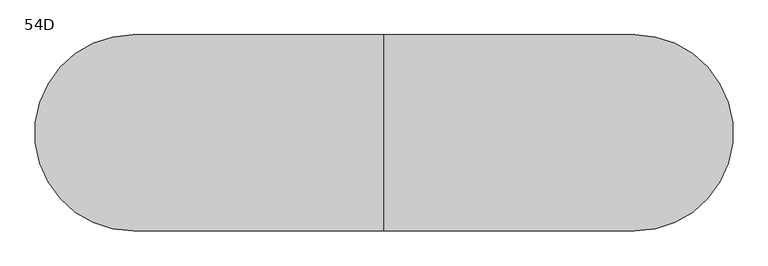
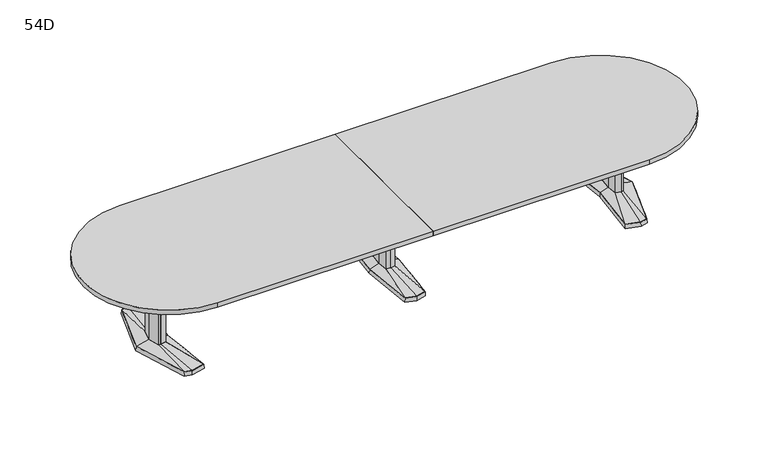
"""IFC4 building model written with IfcOpenShell, lengths in millimetres: furniture geometry, Coalesse_AM_Table_Conference_ETable2_Racetrack_16ft_AluminiumBase : 54D."""

import ifcopenshell
import ifcopenshell.guid

model = None  # the IFC model being written
_history = None  # IfcOwnerHistory: only IFC2X3 demands one
_inside = {}  # id of a spatial element -> (the spatial element, [elements in it])
_under = {}  # id of a project, library or spatial element -> (it, [spatial elements below it])
_declared = {}  # id of a project -> (the project, [libraries it declares])
_typed = {}  # id of a type object -> (the type object, [elements of that type])
_made_of = {}  # id of a material, layer set ... -> (it, [elements and type objects made of it])


def new_model(schema):
    """Start an empty IFC model of exactly this schema.

    Asked for "IFC4X3", IfcOpenShell would pick the latest addendum, in which some entities
    have other attributes; the version numbers below select the first issue.
    IFC2X3 requires an IfcOwnerHistory on every rooted entity: one is made here for all.
    """
    global model, _history
    if schema == "IFC4X3":
        model = ifcopenshell.file(schema_version=(4, 3, 0, 0))
    else:
        model = ifcopenshell.file(schema=schema)
    _inside.clear()
    _under.clear()
    _declared.clear()
    _typed.clear()
    _made_of.clear()
    _history = None
    if model.schema == "IFC2X3":
        org = make("IfcOrganization", Name="unknown")
        user = make(
            "IfcPersonAndOrganization",
            ThePerson=make("IfcPerson", FamilyName="unknown"),
            TheOrganization=org,
        )
        app = make(
            "IfcApplication",
            ApplicationDeveloper=org,
            Version="unknown",
            ApplicationFullName="unknown",
            ApplicationIdentifier="unknown",
        )
        _history = make(
            "IfcOwnerHistory",
            OwningUser=user,
            OwningApplication=app,
            ChangeAction="ADDED",
            CreationDate=0,
        )
    return model


def make(cls, **values):
    """One entity of the class cls with the attributes given. An attribute that is None is left unset."""
    return model.create_entity(
        cls, **{name: value for name, value in values.items() if value is not None}
    )


def rooted(cls, **values):
    """An entity with a GlobalId (a new one), such as an element, a storey or a relation."""
    return make(cls, GlobalId=ifcopenshell.guid.new(), OwnerHistory=_history, **values)


def si_unit(unit_type, name, prefix=None):
    """IfcSIUnit, for example si_unit("LENGTHUNIT", "METRE", prefix="MILLI")."""
    return make("IfcSIUnit", UnitType=unit_type, Prefix=prefix, Name=name)


def assignment(units):
    """IfcUnitAssignment: the units of a project."""
    return None if units is None else make("IfcUnitAssignment", Units=units)


def point(xyz):
    """IfcCartesianPoint."""
    return None if xyz is None else make("IfcCartesianPoint", Coordinates=xyz)


def direction(xyz):
    """IfcDirection."""
    return None if xyz is None else make("IfcDirection", DirectionRatios=xyz)


def frame(location, z_axis=None, x_axis=None):
    """IfcAxis2Placement3D, a coordinate frame: its origin and axes. An axis left out is left unset."""
    return make(
        "IfcAxis2Placement3D",
        Location=point(location),
        Axis=direction(z_axis),
        RefDirection=direction(x_axis),
    )


def frame_2d(location, x_axis=None):
    """IfcAxis2Placement2D, a coordinate frame in the plane: its origin and x axis."""
    return make(
        "IfcAxis2Placement2D", Location=point(location), RefDirection=direction(x_axis)
    )


def origin():
    """The frame at (0, 0, 0) with its axes left unset."""
    return frame((0.0, 0.0, 0.0))


def place(relative_to, where):
    """IfcLocalPlacement: puts the frame where relative to a parent placement (None: the world)."""
    return make(
        "IfcLocalPlacement", PlacementRelTo=relative_to, RelativePlacement=where
    )


def context(
    kind, dimensions, precision=None, world=None, true_north=None, identifier=None
):
    """IfcGeometricRepresentationContext, for example the 3D "Model" context."""
    return make(
        "IfcGeometricRepresentationContext",
        ContextIdentifier=identifier,
        ContextType=kind,
        CoordinateSpaceDimension=dimensions,
        Precision=precision,
        WorldCoordinateSystem=world,
        TrueNorth=true_north,
    )


def project(units=None, contexts=None):
    """IfcProject with its units and contexts."""
    return rooted(
        "IfcProject",
        Name="project",
        RepresentationContexts=contexts,
        UnitsInContext=assignment(units),
    )


def spatial(cls, under=None, at=None, **own):
    """A site, building, storey or space (cls), placed at a placement, below another one or the project."""
    s = rooted(cls, ObjectPlacement=at, **own)
    if under is not None:
        _under.setdefault(under.id(), (under, []))[1].append(s)
    return s


def polyline(points):
    """IfcPolyline through the points."""
    return make("IfcPolyline", Points=[point(p) for p in points])


def circle_curve(where, radius):
    """IfcCircle in the frame where."""
    return make("IfcCircle", Position=where, Radius=radius)


def trimmed(basis, trim1, trim2, sense, master):
    """IfcTrimmedCurve: the piece of a basis curve between two trims."""
    return make(
        "IfcTrimmedCurve",
        BasisCurve=basis,
        Trim1=trim1,
        Trim2=trim2,
        SenseAgreement=sense,
        MasterRepresentation=master,
    )


def segment(curve, same_sense, transition):
    """IfcCompositeCurveSegment."""
    return make(
        "IfcCompositeCurveSegment",
        Transition=transition,
        SameSense=same_sense,
        ParentCurve=curve,
    )


def composite_curve(segments, self_intersect=None):
    """IfcCompositeCurve: segments joined end to end."""
    return make("IfcCompositeCurve", Segments=segments, SelfIntersect=self_intersect)


def outline(outer, holes=None, kind="AREA"):
    """IfcArbitraryClosedProfileDef: a profile drawn as a closed curve; with holes, ...WithVoids."""
    if holes is None:
        return make("IfcArbitraryClosedProfileDef", ProfileType=kind, OuterCurve=outer)
    return make(
        "IfcArbitraryProfileDefWithVoids",
        ProfileType=kind,
        OuterCurve=outer,
        InnerCurves=holes,
    )


def extrude(swept, where, along, depth):
    """IfcExtrudedAreaSolid: the profile swept, set in the frame where, extruded along a direction by depth."""
    return make(
        "IfcExtrudedAreaSolid",
        SweptArea=swept,
        Position=where,
        ExtrudedDirection=direction(along),
        Depth=depth,
    )


def faces_of(points, faces, orient=None, outer=None):
    """IfcFace entities. A face is a list of loops; a loop is a list of indices into points, from 0.

    orient and outer hold one flag for each loop. By default every Orientation is true, the
    first loop of a face is its IfcFaceOuterBound and the others are IfcFaceBound.
    """
    made = []
    for i, loops in enumerate(faces):
        bounds = []
        for j, loop in enumerate(loops):
            is_outer = j == 0 if outer is None else outer[i][j]
            bounds.append(
                make(
                    "IfcFaceOuterBound" if is_outer else "IfcFaceBound",
                    Bound=make("IfcPolyLoop", Polygon=[points[k] for k in loop]),
                    Orientation=True if orient is None else orient[i][j],
                )
            )
        made.append(make("IfcFace", Bounds=bounds))
    return made


def faceted_brep(points, faces, orient=None, outer=None, voids=None):
    """IfcFacetedBrep: a solid bounded by flat faces; with voids (closed shells), ...WithVoids."""
    shared = [point(p) for p in points]
    hull = make("IfcClosedShell", CfsFaces=faces_of(shared, faces, orient, outer))
    if voids is None:
        return make("IfcFacetedBrep", Outer=hull)
    return make(
        "IfcFacetedBrepWithVoids",
        Outer=hull,
        Voids=[
            make(cls, CfsFaces=faces_of(shared, fs, o, b)) for cls, fs, o, b in voids
        ],
    )


def shape(context_of_items, identifier, shape_type, items):
    """IfcShapeRepresentation: the items that make up one representation, for example the "Body"."""
    return make(
        "IfcShapeRepresentation",
        ContextOfItems=context_of_items,
        RepresentationIdentifier=identifier,
        RepresentationType=shape_type,
        Items=items,
    )


def source(mapping_origin, context_of_items, identifier, shape_type, items):
    """IfcRepresentationMap: a shape defined once, which mapped items show again and again."""
    return make(
        "IfcRepresentationMap",
        MappingOrigin=mapping_origin,
        MappedRepresentation=shape(context_of_items, identifier, shape_type, items),
    )


def transform(
    local_origin,
    x_axis=None,
    y_axis=None,
    z_axis=None,
    scale=None,
    scale2=None,
    scale3=None,
    uniform=True,
):
    """IfcCartesianTransformationOperator3D, or its non-uniform kind. x_axis, y_axis, z_axis: its Axis1, 2, 3."""
    if uniform:
        return make(
            "IfcCartesianTransformationOperator3D",
            Axis1=direction(x_axis),
            Axis2=direction(y_axis),
            LocalOrigin=point(local_origin),
            Scale=scale,
            Axis3=direction(z_axis),
        )
    return make(
        "IfcCartesianTransformationOperator3DnonUniform",
        Axis1=direction(x_axis),
        Axis2=direction(y_axis),
        LocalOrigin=point(local_origin),
        Scale=scale,
        Axis3=direction(z_axis),
        Scale2=scale2,
        Scale3=scale3,
    )


def mapped(mapping_source, mapping_target):
    """IfcMappedItem: shows the shape of a source again, moved by a transform."""
    return make(
        "IfcMappedItem", MappingSource=mapping_source, MappingTarget=mapping_target
    )


def made_of(thing, what):
    """Note that an element or type object is made of a material, layer set ...; save() writes the relation."""
    if what is not None:
        _made_of.setdefault(what.id(), (what, []))[1].append(thing)
    return thing


def element(
    cls,
    number,
    at=None,
    inside=None,
    cuts=None,
    type_object=None,
    material=None,
    context=None,
    identifier="Body",
    shape_type=None,
    held_by="IfcProductDefinitionShape",
    body=None,
    shapes=None,
    **own,
):
    """One element of the class cls, such as IfcWall. Its Tag is "e" and its number.

    at: its placement. inside: the storey or other place that contains it. cuts: it is an
    opening in that element (IfcRelVoidsElement). A single representation is given by context,
    identifier, shape_type and body (its items); several are given by shapes. held_by: the class
    of the entity that holds the representations. save() writes the other relations.
    """
    e = rooted(cls, Tag="e%d" % number, ObjectPlacement=at, **own)
    if body is not None:
        shapes = [shape(context, identifier, shape_type, body)]
    if shapes is not None:
        e.Representation = make(held_by, Representations=shapes)
    if inside is not None:
        _inside.setdefault(inside.id(), (inside, []))[1].append(e)
    if cuts is not None:
        rooted(
            "IfcRelVoidsElement", RelatingBuildingElement=cuts, RelatedOpeningElement=e
        )
    if type_object is not None:
        _typed.setdefault(type_object.id(), (type_object, []))[1].append(e)
    return made_of(e, material)


def aggregate(whole, parts):
    """IfcRelAggregates: a whole, such as a stair, and the parts it consists of."""
    return rooted("IfcRelAggregates", RelatingObject=whole, RelatedObjects=parts)


def save(model, path):
    """Write the relations noted so far, then the file.

    IfcRelAggregates (storeys below a building ...), IfcRelContainedInSpatialStructure (elements
    in a storey), IfcRelDefinesByType, IfcRelAssociatesMaterial and IfcRelDeclares: one each for
    every whole, place, type object, material and project.
    """
    for whole, parts in _under.values():
        aggregate(whole, parts)
    for where, things in _inside.values():
        rooted(
            "IfcRelContainedInSpatialStructure",
            RelatedElements=things,
            RelatingStructure=where,
        )
    for kind, things in _typed.values():
        rooted("IfcRelDefinesByType", RelatedObjects=things, RelatingType=kind)
    for what, things in _made_of.values():
        rooted("IfcRelAssociatesMaterial", RelatedObjects=things, RelatingMaterial=what)
    for by, libraries in _declared.values():
        rooted("IfcRelDeclares", RelatingContext=by, RelatedDefinitions=libraries)
    model.write(path)


def plane_surface(at):
    """IfcPlane: the flat surface through the origin of the frame at, square to its z axis."""
    return make("IfcPlane", Position=at)


def spline_surface(u_degree, v_degree, points, u_multiplicities, v_multiplicities, u_knots, v_knots, weights=None):
    """IfcBSplineSurfaceWithKnots; with weights, IfcRationalBSplineSurfaceWithKnots. points: one row for each step in u."""
    own = dict(
        UDegree=u_degree,
        VDegree=v_degree,
        ControlPointsList=[[point(p) for p in row] for row in points],
        SurfaceForm="UNSPECIFIED",
        UClosed=False,
        VClosed=False,
        SelfIntersect=False,
        UMultiplicities=u_multiplicities,
        VMultiplicities=v_multiplicities,
        UKnots=u_knots,
        VKnots=v_knots,
        KnotSpec="UNSPECIFIED",
    )
    if weights is None:
        return make("IfcBSplineSurfaceWithKnots", **own)
    return make("IfcRationalBSplineSurfaceWithKnots", WeightsData=weights, **own)


def advanced_brep(points, edges, surfaces, faces):
    """IfcAdvancedBrep: a solid bounded by faces that lie on surfaces and meet in shared edges.

    An edge is (start, end): straight between two places in points (the first is 0);
    or (start, end, curve); or (start, end, curve, False) where it runs against its curve.
    A face is (place in surfaces, loops), or (place, loops, False) where it looks against
    its surface's normal. A loop lists edges by number (the first is 1), with a minus sign
    where the edge is run from its end to its start. The first loop is the outer one.
    """
    corners = [point(p) for p in points]
    vertices = [make("IfcVertexPoint", VertexGeometry=c) for c in corners]
    made = []
    for start, end, *more in edges:
        made.append(
            make(
                "IfcEdgeCurve",
                EdgeStart=vertices[start],
                EdgeEnd=vertices[end],
                EdgeGeometry=more[0] if more else make("IfcPolyline", Points=[corners[start], corners[end]]),
                SameSense=more[1] if len(more) > 1 else True,
            )
        )
    hull = []
    for where, loops, *sense in faces:
        bounds = []
        for j, loop in enumerate(loops):
            ring = [make("IfcOrientedEdge", EdgeElement=made[abs(k) - 1], Orientation=k > 0) for k in loop]
            bounds.append(
                make(
                    "IfcFaceOuterBound" if j == 0 else "IfcFaceBound",
                    Bound=make("IfcEdgeLoop", EdgeList=ring),
                    Orientation=True,
                )
            )
        hull.append(make("IfcAdvancedFace", Bounds=bounds, FaceSurface=surfaces[where], SameSense=sense[0] if sense else True))
    return make("IfcAdvancedBrep", Outer=make("IfcClosedShell", CfsFaces=hull))


def furniture_54d_09924e1d(model_context):
    return source(origin(), model_context, "Body", "SolidModel", [
        faceted_brep([(-81.2333791, -433.8053819, 38.1), (0.0, -455.556576, 38.1), (81.2333791, -433.8053819, 38.1), (119.0564774, 0.0, 38.1), (81.2333791, 433.8053819, 38.1), (0.0, 455.556576, 38.1), (-81.2333791, 433.8053819, 38.1), (-119.0564774, 0.0, 38.1), (-82.7182795, -435.0512063, 3.175), (-120.65, 0.0, 3.175), (-82.7182795, 435.0512063, 3.175), (0.0, 457.2, 3.175), (82.7182795, 435.0512063, 3.175), (120.65, 0.0, 3.175), (82.7182795, -435.0512063, 3.175), (0.0, -457.2, 3.175), (0.0, 429.2617927, 3.175), (-77.9676806, 408.3850278, 3.175), (-74.7019821, 382.9646737, 3.175), (0.0, 402.9670094, 3.175), (74.7019821, 382.9646737, 3.175), (77.9676806, 408.3850278, 3.175), (0.0, -429.2617927, 3.175), (77.9676806, -408.3850278, 3.175), (74.7019821, -382.9646737, 3.175), (0.0, -402.9670094, 3.175), (-74.7019821, -382.9646737, 3.175), (-77.9676806, -408.3850278, 3.175), (-71.8574262, 114.6326257, 3.175), (-82.5426076, 0.0, 3.175), (-71.8574262, -114.6326257, 3.175), (0.0, -133.8761372, 3.175), (71.8574262, -114.6326257, 3.175), (82.5426076, 0.0, 3.175), (71.8574262, 114.6326257, 3.175), (0.0, 133.8761372, 3.175), (0.0, 429.2617927, 0.0), (77.9676806, 408.3850278, 0.0), (74.7019821, 382.9646737, 0.0), (0.0, 402.9670094, 0.0), (-74.7019821, 382.9646737, 0.0), (-77.9676806, 408.3850278, 0.0), (0.0, -429.2617927, 0.0), (-77.9676806, -408.3850278, 0.0), (-74.7019821, -382.9646737, 0.0), (0.0, -402.9670094, 0.0), (74.7019821, -382.9646737, 0.0), (77.9676806, -408.3850278, 0.0), (-71.8574262, 114.6326257, 0.0), (0.0, 133.8761372, 0.0), (71.8574262, 114.6326257, 0.0), (82.5426076, 0.0, 0.0), (71.8574262, -114.6326257, 0.0), (0.0, -133.8761372, 0.0), (-71.8574262, -114.6326257, 0.0), (-82.5426076, 0.0, 0.0)], [[[0, 1, 2, 3, 4, 5, 6, 7]], [[8, 9, 10, 11, 12, 13, 14, 15], [16, 17, 18, 19, 20, 21], [22, 23, 24, 25, 26, 27], [28, 29, 30, 31, 32, 33, 34, 35]], [[1, 0, 8, 15]], [[2, 1, 15, 14]], [[3, 2, 14, 13]], [[4, 3, 13, 12]], [[5, 4, 12, 11]], [[6, 5, 11, 10]], [[7, 6, 10, 9]], [[0, 7, 9, 8]], [[36, 37, 38, 39, 40, 41]], [[42, 43, 44, 45, 46, 47]], [[48, 49, 50, 51, 52, 53, 54, 55]], [[36, 41, 17, 16]], [[41, 40, 18, 17]], [[40, 39, 19, 18]], [[39, 38, 20, 19]], [[38, 37, 21, 20]], [[37, 36, 16, 21]], [[42, 47, 23, 22]], [[47, 46, 24, 23]], [[46, 45, 25, 24]], [[45, 44, 26, 25]], [[44, 43, 27, 26]], [[43, 42, 22, 27]], [[48, 55, 29, 28]], [[55, 54, 30, 29]], [[54, 53, 31, 30]], [[53, 52, 32, 31]], [[52, 51, 33, 32]], [[51, 50, 34, 33]], [[50, 49, 35, 34]], [[49, 48, 28, 35]]]),
        faceted_brep([(-36.3832834, 84.6900825, 698.5), (-44.2774487, 0.0, 698.5), (-36.3832834, -84.6900825, 698.5), (0.0, -94.4335728, 698.5), (36.3832834, -84.6900825, 698.5), (44.2774487, 0.0, 698.5), (36.3832834, 84.6900825, 698.5), (0.0, 94.4335728, 698.5), (-36.3832834, 84.6900825, 63.5), (0.0, 94.4335728, 63.5), (36.3832834, 84.6900825, 63.5), (44.2774487, 0.0, 63.5), (36.3832834, -84.6900825, 63.5), (0.0, -94.4335728, 63.5), (-36.3832834, -84.6900825, 63.5), (-44.2774487, 0.0, 63.5)], [[[0, 1, 2, 3, 4, 5, 6, 7]], [[8, 9, 10, 11, 12, 13, 14, 15]], [[1, 0, 8, 15]], [[2, 1, 15, 14]], [[3, 2, 14, 13]], [[4, 3, 13, 12]], [[5, 4, 12, 11]], [[6, 5, 11, 10]], [[7, 6, 10, 9]], [[0, 7, 9, 8]]]),
        advanced_brep(
        [(-36.3832834, 84.6900825, 63.5), (-44.2774487, 0.0, 63.5), (-36.3832834, -84.6900825, 63.5), (0.0, -94.4335728, 63.5), (36.3832834, -84.6900825, 63.5), (44.2774487, 0.0, 63.5), (36.3832834, 84.6900825, 63.5), (0.0, 94.4335728, 63.5), (-81.2333791, 433.8053819, 38.1), (0.0, 455.556576, 38.1), (81.2333791, 433.8053819, 38.1), (119.0564774, 0.0, 38.1), (81.2333791, -433.8053819, 38.1), (0.0, -455.556576, 38.1), (-81.2333791, -433.8053819, 38.1), (-119.0564774, 0.0, 38.1)],
        [
            (0, 1),
            (1, 2),
            (2, 3),
            (3, 4),
            (4, 5),
            (5, 6),
            (6, 7),
            (7, 0),
            (8, 9),
            (9, 10),
            (10, 11),
            (11, 12),
            (12, 13),
            (13, 14),
            (14, 15),
            (15, 8),
            (15, 1),
            (0, 8),
            (14, 2),
            (13, 3),
            (12, 4),
            (11, 5),
            (10, 6),
            (9, 7),
        ],
        [
            plane_surface(frame((0.0, 0.0, 63.5), z_axis=(0.0, 0.0, 1.0000000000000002), x_axis=(-0.9659615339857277, -0.25868574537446, 0.0))),
            plane_surface(frame((0.0, 0.0, 38.1), z_axis=(0.0, 0.0, -1.0000000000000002), x_axis=(-0.9659615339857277, -0.25868574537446, 0.0))),
            spline_surface(1, 1, [[(-81.2333791, 433.8053819, 38.1), (-36.3832834, 84.6900825, 63.5)], [(-119.0564774, 0.0, 38.1), (-44.2774487, 0.0, 63.5)]], [2, 2], [2, 2], [0.0, 1.0], [0.0, 1.0]),
            spline_surface(1, 1, [[(-119.0564774, 0.0, 38.1), (-44.2774487, 0.0, 63.5)], [(-81.2333791, -433.8053819, 38.1), (-36.3832834, -84.6900825, 63.5)]], [2, 2], [2, 2], [0.0, 1.0], [0.0, 1.0]),
            spline_surface(1, 1, [[(-81.2333791, -433.8053819, 38.1), (-36.3832834, -84.6900825, 63.5)], [(0.0, -455.556576, 38.1), (0.0, -94.4335728, 63.5)]], [2, 2], [2, 2], [0.0, 1.0], [0.0, 1.0]),
            spline_surface(1, 1, [[(0.0, -455.556576, 38.1), (0.0, -94.4335728, 63.5)], [(81.2333791, -433.8053819, 38.1), (36.3832834, -84.6900825, 63.5)]], [2, 2], [2, 2], [0.0, 1.0], [0.0, 1.0]),
            spline_surface(1, 1, [[(81.2333791, -433.8053819, 38.1), (36.3832834, -84.6900825, 63.5)], [(119.0564774, 0.0, 38.1), (44.2774487, 0.0, 63.5)]], [2, 2], [2, 2], [0.0, 1.0], [0.0, 1.0]),
            spline_surface(1, 1, [[(119.0564774, 0.0, 38.1), (44.2774487, 0.0, 63.5)], [(81.2333791, 433.8053819, 38.1), (36.3832834, 84.6900825, 63.5)]], [2, 2], [2, 2], [0.0, 1.0], [0.0, 1.0]),
            spline_surface(1, 1, [[(81.2333791, 433.8053819, 38.1), (36.3832834, 84.6900825, 63.5)], [(0.0, 455.556576, 38.1), (0.0, 94.4335728, 63.5)]], [2, 2], [2, 2], [0.0, 1.0], [0.0, 1.0]),
            spline_surface(1, 1, [[(0.0, 455.556576, 38.1), (0.0, 94.4335728, 63.5)], [(-81.2333791, 433.8053819, 38.1), (-36.3832834, 84.6900825, 63.5)]], [2, 2], [2, 2], [0.0, 1.0], [0.0, 1.0]),
        ],
        [
            (0, [[1, 2, 3, 4, 5, 6, 7, 8]]),
            (1, [[9, 10, 11, 12, 13, 14, 15, 16]]),
            (2, [[-16, 17, -1, 18]]),
            (3, [[-15, 19, -2, -17]]),
            (4, [[-14, 20, -3, -19]]),
            (5, [[-13, 21, -4, -20]]),
            (6, [[-12, 22, -5, -21]]),
            (7, [[-11, 23, -6, -22]]),
            (8, [[-10, 24, -7, -23]]),
            (9, [[-9, -18, -8, -24]]),
        ],
    ),
        faceted_brep([(1820.2306835, 455.5848221, 38.1), (1710.6531277, 426.2263816, 38.1), (1751.8163717, 0.0, 38.1), (1710.6531277, -426.2263816, 38.1), (1820.2306835, -455.5848221, 38.1), (1876.3570396, -440.5478297, 38.1), (2013.6684269, 0.0, 38.1), (1876.3570396, 440.5478297, 38.1), (1820.2306754, 457.2283104, 3.175), (1877.6124472, 441.8549756, 3.175), (2015.33125, 0.0, 3.175), (1877.6124472, -441.8549756, 3.175), (1820.2306754, -457.2283104, 3.175), (1708.94375, -427.4118891, 3.175), (1750.2214856, 0.0, 3.175), (1708.94375, 427.4118891, 3.175), (1823.820115, 428.3273875, 3.175), (1718.7718228, 402.1057253, 3.175), (1726.890518, 377.985069, 3.175), (1827.4095466, 401.0699529, 3.175), (1877.9691725, 387.524361, 3.175), (1877.1631061, 414.0360954, 3.175), (1823.820115, -428.3273875, 3.175), (1877.1631061, -414.0360954, 3.175), (1877.9691725, -387.524361, 3.175), (1827.4095466, -401.0699529, 3.175), (1726.890518, -377.985069, 3.175), (1718.7718228, -402.1057253, 3.175), (1950.4153621, 0.0, 3.175), (1918.1459611, 120.4193755, 3.175), (1869.4987222, 133.471665, 3.175), (1789.6180526, 119.4176561, 3.175), (1778.4868466, 0.0, 3.175), (1789.6180526, -119.4176561, 3.175), (1869.4987222, -133.471665, 3.175), (1918.1459611, -120.4193755, 3.175), (1823.820115, 428.3273875, 0.0), (1877.1631061, 414.0360954, 0.0), (1877.9691725, 387.524361, 0.0), (1827.4095466, 401.0699529, 0.0), (1726.890518, 377.985069, 0.0), (1718.7718228, 402.1057253, 0.0), (1823.820115, -428.3273875, 0.0), (1718.7718228, -402.1057253, 0.0), (1726.890518, -377.985069, 0.0), (1827.4095466, -401.0699529, 0.0), (1877.9691725, -387.524361, 0.0), (1877.1631061, -414.0360954, 0.0), (1950.4153621, 0.0, 0.0), (1918.1459611, -120.4193755, 0.0), (1869.4987222, -133.471665, 0.0), (1789.6180526, -119.4176561, 0.0), (1778.4868466, 0.0, 0.0), (1789.6180526, 119.4176561, 0.0), (1869.4987222, 133.471665, 0.0), (1918.1459611, 120.4193755, 0.0)], [[[0, 1, 2, 3, 4, 5, 6, 7]], [[8, 9, 10, 11, 12, 13, 14, 15], [16, 17, 18, 19, 20, 21], [22, 23, 24, 25, 26, 27], [28, 29, 30, 31, 32, 33, 34, 35]], [[7, 9, 8, 0]], [[6, 10, 9, 7]], [[5, 11, 10, 6]], [[4, 12, 11, 5]], [[3, 13, 12, 4]], [[2, 14, 13, 3]], [[1, 15, 14, 2]], [[0, 8, 15, 1]], [[36, 37, 38, 39, 40, 41]], [[42, 43, 44, 45, 46, 47]], [[48, 49, 50, 51, 52, 53, 54, 55]], [[36, 16, 21, 37]], [[37, 21, 20, 38]], [[38, 20, 19, 39]], [[39, 19, 18, 40]], [[40, 18, 17, 41]], [[41, 17, 16, 36]], [[42, 22, 27, 43]], [[43, 27, 26, 44]], [[44, 26, 25, 45]], [[45, 25, 24, 46]], [[46, 24, 23, 47]], [[47, 23, 22, 42]], [[48, 28, 35, 49]], [[49, 35, 34, 50]], [[50, 34, 33, 51]], [[51, 33, 32, 52]], [[52, 32, 31, 53]], [[53, 31, 30, 54]], [[54, 30, 29, 55]], [[55, 29, 28, 48]]]),
        faceted_brep([(1910.9710836, 0.0, 698.5), (1887.0358546, 89.3188359, 698.5), (1870.1824984, 93.8406728, 698.5), (1867.7826511, 94.4845635, 698.5), (1824.855146, 86.9320037, 698.5), (1816.7520056, 0.0, 698.5), (1824.855146, -86.9320037, 698.5), (1867.7826511, -94.4845635, 698.5), (1870.1824984, -93.8406728, 698.5), (1887.0358546, -89.3188359, 698.5), (1910.9710836, 0.0, 63.5), (1887.0358546, -89.3188359, 63.5), (1870.1824984, -93.8406728, 63.5), (1867.7826511, -94.4845635, 63.5), (1824.855146, -86.9320037, 63.5), (1816.7520056, 0.0, 63.5), (1824.855146, 86.9320037, 63.5), (1867.7826511, 94.4845635, 63.5), (1870.1824984, 93.8406728, 63.5), (1887.0358546, 89.3188359, 63.5)], [[[0, 1, 2, 3, 4, 5, 6, 7, 8, 9]], [[10, 11, 12, 13, 14, 15, 16, 17, 18, 19]], [[9, 11, 10, 0]], [[8, 12, 11, 9]], [[7, 13, 12, 8]], [[6, 14, 13, 7]], [[5, 15, 14, 6]], [[4, 16, 15, 5]], [[3, 17, 16, 4]], [[2, 18, 17, 3]], [[1, 19, 18, 2]], [[0, 10, 19, 1]]]),
        advanced_brep(
        [(1867.7826511, 94.4845635, 63.5), (1824.855146, 86.9320037, 63.5), (1816.7520056, 0.0, 63.5), (1824.855146, -86.9320037, 63.5), (1867.7826511, -94.4845635, 63.5), (1887.0358546, -89.3188359, 63.5), (1910.9710836, 0.0, 63.5), (1887.0358546, 89.3188359, 63.5), (1820.2306835, 455.5848221, 38.1), (1876.3570396, 440.5478297, 38.1), (2013.6684269, 0.0, 38.1), (1876.3570396, -440.5478297, 38.1), (1820.2306835, -455.5848221, 38.1), (1710.6531277, -426.2263816, 38.1), (1751.8163717, 0.0, 38.1), (1710.6531277, 426.2263816, 38.1)],
        [
            (0, 1),
            (1, 2),
            (2, 3),
            (3, 4),
            (4, 5),
            (5, 6),
            (6, 7),
            (7, 0),
            (8, 9),
            (9, 10),
            (10, 11),
            (11, 12),
            (12, 13),
            (13, 14),
            (14, 15),
            (15, 8),
            (8, 0),
            (7, 9),
            (6, 10),
            (5, 11),
            (4, 12),
            (3, 13),
            (2, 14),
            (1, 15),
        ],
        [
            plane_surface(frame((1860.8837991, 0.0, 63.5), z_axis=(0.0, 0.0, 1.0), x_axis=(-0.25884244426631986, -0.9659195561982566, 0.0))),
            plane_surface(frame((1822.4958125, 0.0, 38.1), z_axis=(0.0, 0.0, -1.0), x_axis=(-0.25884244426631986, -0.9659195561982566, 0.0))),
            spline_surface(1, 1, [[(1820.2306835, 455.5848221, 38.1), (1876.3570396, 440.5478297, 38.1)], [(1867.7826511, 94.4845635, 63.5), (1887.0358546, 89.3188359, 63.5)]], [2, 2], [2, 2], [0.0, 1.0], [0.0, 1.0]),
            spline_surface(1, 1, [[(1876.3570396, 440.5478297, 38.1), (2013.6684269, 0.0, 38.1)], [(1887.0358546, 89.3188359, 63.5), (1910.9710836, 0.0, 63.5)]], [2, 2], [2, 2], [0.0, 1.0], [0.0, 1.0]),
            spline_surface(1, 1, [[(2013.6684269, 0.0, 38.1), (1876.3570396, -440.5478297, 38.1)], [(1910.9710836, 0.0, 63.5), (1887.0358546, -89.3188359, 63.5)]], [2, 2], [2, 2], [0.0, 1.0], [0.0, 1.0]),
            spline_surface(1, 1, [[(1876.3570396, -440.5478297, 38.1), (1820.2306835, -455.5848221, 38.1)], [(1887.0358546, -89.3188359, 63.5), (1867.7826511, -94.4845635, 63.5)]], [2, 2], [2, 2], [0.0, 1.0], [0.0, 1.0]),
            spline_surface(1, 1, [[(1820.2306835, -455.5848221, 38.1), (1710.6531277, -426.2263816, 38.1)], [(1867.7826511, -94.4845635, 63.5), (1824.855146, -86.9320037, 63.5)]], [2, 2], [2, 2], [0.0, 1.0], [0.0, 1.0]),
            spline_surface(1, 1, [[(1710.6531277, -426.2263816, 38.1), (1751.8163717, 0.0, 38.1)], [(1824.855146, -86.9320037, 63.5), (1816.7520056, 0.0, 63.5)]], [2, 2], [2, 2], [0.0, 1.0], [0.0, 1.0]),
            spline_surface(1, 1, [[(1751.8163717, 0.0, 38.1), (1710.6531277, 426.2263816, 38.1)], [(1816.7520056, 0.0, 63.5), (1824.855146, 86.9320037, 63.5)]], [2, 2], [2, 2], [0.0, 1.0], [0.0, 1.0]),
            spline_surface(1, 1, [[(1710.6531277, 426.2263816, 38.1), (1820.2306835, 455.5848221, 38.1)], [(1824.855146, 86.9320037, 63.5), (1867.7826511, 94.4845635, 63.5)]], [2, 2], [2, 2], [0.0, 1.0], [0.0, 1.0]),
        ],
        [
            (0, [[1, 2, 3, 4, 5, 6, 7, 8]]),
            (1, [[9, 10, 11, 12, 13, 14, 15, 16]]),
            (2, [[17, -8, 18, -9]]),
            (3, [[-18, -7, 19, -10]]),
            (4, [[-19, -6, 20, -11]]),
            (5, [[-20, -5, 21, -12]]),
            (6, [[-21, -4, 22, -13]]),
            (7, [[-22, -3, 23, -14]]),
            (8, [[-23, -2, 24, -15]]),
            (9, [[-24, -1, -17, -16]]),
        ],
    ),
        faceted_brep([(-1820.2306835, 455.5848221, 38.1), (-1876.3570396, 440.5478297, 38.1), (-2013.6684269, 0.0, 38.1), (-1876.3570396, -440.5478297, 38.1), (-1820.2306835, -455.5848221, 38.1), (-1710.6531277, -426.2263816, 38.1), (-1751.8163717, 0.0, 38.1), (-1710.6531277, 426.2263816, 38.1), (-1820.2306754, 457.2283104, 3.175), (-1708.94375, 427.4118891, 3.175), (-1750.2214856, 0.0, 3.175), (-1708.94375, -427.4118891, 3.175), (-1820.2306754, -457.2283104, 3.175), (-1877.6124472, -441.8549756, 3.175), (-2015.33125, 0.0, 3.175), (-1877.6124472, 441.8549756, 3.175), (-1823.820115, 428.3273875, 3.175), (-1877.1631061, 414.0360954, 3.175), (-1877.9691725, 387.524361, 3.175), (-1827.4095466, 401.0699529, 3.175), (-1726.890518, 377.985069, 3.175), (-1718.7718228, 402.1057253, 3.175), (-1823.820115, -428.3273875, 3.175), (-1718.7718228, -402.1057253, 3.175), (-1726.890518, -377.985069, 3.175), (-1827.4095466, -401.0699529, 3.175), (-1877.9691725, -387.524361, 3.175), (-1877.1631061, -414.0360954, 3.175), (-1950.4153621, 0.0, 3.175), (-1918.1459611, -120.4193755, 3.175), (-1869.4987222, -133.471665, 3.175), (-1789.6180526, -119.4176561, 3.175), (-1778.4868466, 0.0, 3.175), (-1789.6180526, 119.4176561, 3.175), (-1869.4987222, 133.471665, 3.175), (-1918.1459611, 120.4193755, 3.175), (-1823.820115, 428.3273875, 0.0), (-1718.7718228, 402.1057253, 0.0), (-1726.890518, 377.985069, 0.0), (-1827.4095466, 401.0699529, 0.0), (-1877.9691725, 387.524361, 0.0), (-1877.1631061, 414.0360954, 0.0), (-1823.820115, -428.3273875, 0.0), (-1877.1631061, -414.0360954, 0.0), (-1877.9691725, -387.524361, 0.0), (-1827.4095466, -401.0699529, 0.0), (-1726.890518, -377.985069, 0.0), (-1718.7718228, -402.1057253, 0.0), (-1950.4153621, 0.0, 0.0), (-1918.1459611, 120.4193755, 0.0), (-1869.4987222, 133.471665, 0.0), (-1789.6180526, 119.4176561, 0.0), (-1778.4868466, 0.0, 0.0), (-1789.6180526, -119.4176561, 0.0), (-1869.4987222, -133.471665, 0.0), (-1918.1459611, -120.4193755, 0.0)], [[[0, 1, 2, 3, 4, 5, 6, 7]], [[8, 9, 10, 11, 12, 13, 14, 15], [16, 17, 18, 19, 20, 21], [22, 23, 24, 25, 26, 27], [28, 29, 30, 31, 32, 33, 34, 35]], [[1, 0, 8, 15]], [[2, 1, 15, 14]], [[3, 2, 14, 13]], [[4, 3, 13, 12]], [[5, 4, 12, 11]], [[6, 5, 11, 10]], [[7, 6, 10, 9]], [[0, 7, 9, 8]], [[36, 37, 38, 39, 40, 41]], [[42, 43, 44, 45, 46, 47]], [[48, 49, 50, 51, 52, 53, 54, 55]], [[36, 41, 17, 16]], [[41, 40, 18, 17]], [[40, 39, 19, 18]], [[39, 38, 20, 19]], [[38, 37, 21, 20]], [[37, 36, 16, 21]], [[42, 47, 23, 22]], [[47, 46, 24, 23]], [[46, 45, 25, 24]], [[45, 44, 26, 25]], [[44, 43, 27, 26]], [[43, 42, 22, 27]], [[48, 55, 29, 28]], [[55, 54, 30, 29]], [[54, 53, 31, 30]], [[53, 52, 32, 31]], [[52, 51, 33, 32]], [[51, 50, 34, 33]], [[50, 49, 35, 34]], [[49, 48, 28, 35]]]),
        faceted_brep([(-1910.9710836, 0.0, 698.5), (-1887.0358546, -89.3188359, 698.5), (-1870.1824984, -93.8406728, 698.5), (-1867.7826511, -94.4845635, 698.5), (-1824.855146, -86.9320037, 698.5), (-1816.7520056, 0.0, 698.5), (-1824.855146, 86.9320037, 698.5), (-1867.7826511, 94.4845635, 698.5), (-1870.1824984, 93.8406728, 698.5), (-1887.0358546, 89.3188359, 698.5), (-1910.9710836, 0.0, 63.5), (-1887.0358546, 89.3188359, 63.5), (-1870.1824984, 93.8406728, 63.5), (-1867.7826511, 94.4845635, 63.5), (-1824.855146, 86.9320037, 63.5), (-1816.7520056, 0.0, 63.5), (-1824.855146, -86.9320037, 63.5), (-1867.7826511, -94.4845635, 63.5), (-1870.1824984, -93.8406728, 63.5), (-1887.0358546, -89.3188359, 63.5)], [[[0, 1, 2, 3, 4, 5, 6, 7, 8, 9]], [[10, 11, 12, 13, 14, 15, 16, 17, 18, 19]], [[1, 0, 10, 19]], [[2, 1, 19, 18]], [[3, 2, 18, 17]], [[4, 3, 17, 16]], [[5, 4, 16, 15]], [[6, 5, 15, 14]], [[7, 6, 14, 13]], [[8, 7, 13, 12]], [[9, 8, 12, 11]], [[0, 9, 11, 10]]]),
        advanced_brep(
        [(-1867.7826511, 94.4845635, 63.5), (-1887.0358546, 89.3188359, 63.5), (-1910.9710836, 0.0, 63.5), (-1887.0358546, -89.3188359, 63.5), (-1867.7826511, -94.4845635, 63.5), (-1824.855146, -86.9320037, 63.5), (-1816.7520056, 0.0, 63.5), (-1824.855146, 86.9320037, 63.5), (-1820.2306835, 455.5848221, 38.1), (-1710.6531277, 426.2263816, 38.1), (-1751.8163717, 0.0, 38.1), (-1710.6531277, -426.2263816, 38.1), (-1820.2306835, -455.5848221, 38.1), (-1876.3570396, -440.5478297, 38.1), (-2013.6684269, 0.0, 38.1), (-1876.3570396, 440.5478297, 38.1)],
        [
            (0, 1),
            (1, 2),
            (2, 3),
            (3, 4),
            (4, 5),
            (5, 6),
            (6, 7),
            (7, 0),
            (8, 9),
            (9, 10),
            (10, 11),
            (11, 12),
            (12, 13),
            (13, 14),
            (14, 15),
            (15, 8),
            (15, 1),
            (0, 8),
            (14, 2),
            (13, 3),
            (12, 4),
            (11, 5),
            (10, 6),
            (9, 7),
        ],
        [
            plane_surface(frame((-1860.8837991, 0.0, 63.5), z_axis=(0.0, 0.0, 1.0), x_axis=(0.25884244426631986, -0.9659195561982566, 0.0))),
            plane_surface(frame((-1822.4958125, 0.0, 38.1), z_axis=(0.0, 0.0, -1.0), x_axis=(0.25884244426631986, -0.9659195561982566, 0.0))),
            spline_surface(1, 1, [[(-1820.2306835, 455.5848221, 38.1), (-1867.7826511, 94.4845635, 63.5)], [(-1876.3570396, 440.5478297, 38.1), (-1887.0358546, 89.3188359, 63.5)]], [2, 2], [2, 2], [0.0, 1.0], [0.0, 1.0]),
            spline_surface(1, 1, [[(-1876.3570396, 440.5478297, 38.1), (-1887.0358546, 89.3188359, 63.5)], [(-2013.6684269, 0.0, 38.1), (-1910.9710836, 0.0, 63.5)]], [2, 2], [2, 2], [0.0, 1.0], [0.0, 1.0]),
            spline_surface(1, 1, [[(-2013.6684269, 0.0, 38.1), (-1910.9710836, 0.0, 63.5)], [(-1876.3570396, -440.5478297, 38.1), (-1887.0358546, -89.3188359, 63.5)]], [2, 2], [2, 2], [0.0, 1.0], [0.0, 1.0]),
            spline_surface(1, 1, [[(-1876.3570396, -440.5478297, 38.1), (-1887.0358546, -89.3188359, 63.5)], [(-1820.2306835, -455.5848221, 38.1), (-1867.7826511, -94.4845635, 63.5)]], [2, 2], [2, 2], [0.0, 1.0], [0.0, 1.0]),
            spline_surface(1, 1, [[(-1820.2306835, -455.5848221, 38.1), (-1867.7826511, -94.4845635, 63.5)], [(-1710.6531277, -426.2263816, 38.1), (-1824.855146, -86.9320037, 63.5)]], [2, 2], [2, 2], [0.0, 1.0], [0.0, 1.0]),
            spline_surface(1, 1, [[(-1710.6531277, -426.2263816, 38.1), (-1824.855146, -86.9320037, 63.5)], [(-1751.8163717, 0.0, 38.1), (-1816.7520056, 0.0, 63.5)]], [2, 2], [2, 2], [0.0, 1.0], [0.0, 1.0]),
            spline_surface(1, 1, [[(-1751.8163717, 0.0, 38.1), (-1816.7520056, 0.0, 63.5)], [(-1710.6531277, 426.2263816, 38.1), (-1824.855146, 86.9320037, 63.5)]], [2, 2], [2, 2], [0.0, 1.0], [0.0, 1.0]),
            spline_surface(1, 1, [[(-1710.6531277, 426.2263816, 38.1), (-1824.855146, 86.9320037, 63.5)], [(-1820.2306835, 455.5848221, 38.1), (-1867.7826511, 94.4845635, 63.5)]], [2, 2], [2, 2], [0.0, 1.0], [0.0, 1.0]),
        ],
        [
            (0, [[1, 2, 3, 4, 5, 6, 7, 8]]),
            (1, [[9, 10, 11, 12, 13, 14, 15, 16]]),
            (2, [[-16, 17, -1, 18]]),
            (3, [[-15, 19, -2, -17]]),
            (4, [[-14, 20, -3, -19]]),
            (5, [[-13, 21, -4, -20]]),
            (6, [[-12, 22, -5, -21]]),
            (7, [[-11, 23, -6, -22]]),
            (8, [[-10, 24, -7, -23]]),
            (9, [[-9, -18, -8, -24]]),
        ],
    ),
        extrude(outline(polyline([(96.8375, 698.5), (103.1875, 698.5), (103.1875, 476.25), (-103.1875, 476.25), (-103.1875, 698.5), (-96.8375, 698.5), (-96.8375, 482.6), (96.8375, 482.6), (96.8375, 698.5)])), frame((44.2774487, 0.0, 0.0), z_axis=(1.0, 0.0, 0.0), x_axis=(0.0, 1.0, 0.0)), (0.0, 0.0, 1.0), 1772.6163013),
        extrude(outline(composite_curve([segment(trimmed(circle_curve(frame_2d((1752.6, 0.0)), 685.8), [point((1752.6, 685.8))], [point((1752.6, -685.8))], False, "CARTESIAN"), True, "CONTINUOUS"), segment(polyline([(1752.6, -685.8), (0.0, -685.8), (0.0, 685.8), (1752.6, 685.8)]), True, "CONTINUOUS")], self_intersect=False)), frame((0.0, 0.0, 698.5), z_axis=(0.0, 0.0, 1.0), x_axis=(1.0, 0.0, 0.0)), (0.0, 0.0, 1.0), 38.1),
        extrude(outline(composite_curve([segment(polyline([(0.0, 685.8), (0.0, -685.8), (-1752.6, -685.8)]), True, "CONTINUOUS"), segment(trimmed(circle_curve(frame_2d((-1752.6, 0.0)), 685.8), [point((-1752.6, -685.8))], [point((-1752.6, 685.8))], False, "CARTESIAN"), True, "CONTINUOUS"), segment(polyline([(-1752.6, 685.8), (0.0, 685.8)]), True, "CONTINUOUS")], self_intersect=False)), frame((0.0, 0.0, 698.5), z_axis=(0.0, 0.0, 1.0), x_axis=(1.0, 0.0, 0.0)), (0.0, 0.0, 1.0), 38.1),
        extrude(outline(polyline([(96.8375, 698.5), (103.1875, 698.5), (103.1875, 476.25), (-103.1875, 476.25), (-103.1875, 698.5), (-96.8375, 698.5), (-96.8375, 482.6), (96.8375, 482.6), (96.8375, 698.5)])), frame((-1816.89375, 0.0, 0.0), z_axis=(1.0, 0.0, 0.0), x_axis=(0.0, 1.0, 0.0)), (0.0, 0.0, 1.0), 1772.6163013),
    ])


if __name__ == "__main__":
    model = new_model("IFC4")
    model_context = context("Model", 3, world=origin())
    ifc_project = project(units=[si_unit("LENGTHUNIT", "METRE", prefix="MILLI")], contexts=[model_context])
    site = spatial("IfcSite", under=ifc_project)
    building = spatial("IfcBuilding", under=site)
    placement = place(None, origin())
    furniture_54d_shape = furniture_54d_09924e1d(model_context)
    element("IfcFurniture", 1, ObjectType="Coalesse_AM_Table_Conference_ETable2_Racetrack_16ft_AluminiumBase : 54D", at=placement, inside=building, context=model_context, shape_type="MappedRepresentation", body=[
        mapped(furniture_54d_shape, transform((0.0, 0.0, 0.0), x_axis=(1.0, 0.0, 0.0), y_axis=(0.0, 1.0, 0.0), z_axis=(0.0, 0.0, 1.0))),
    ])
    save(model, "model.ifc")
